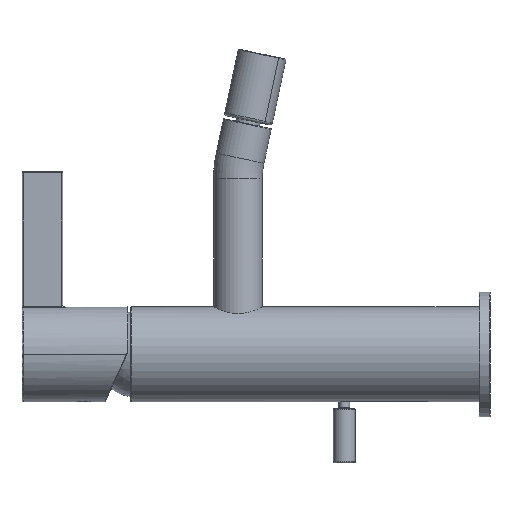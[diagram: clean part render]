
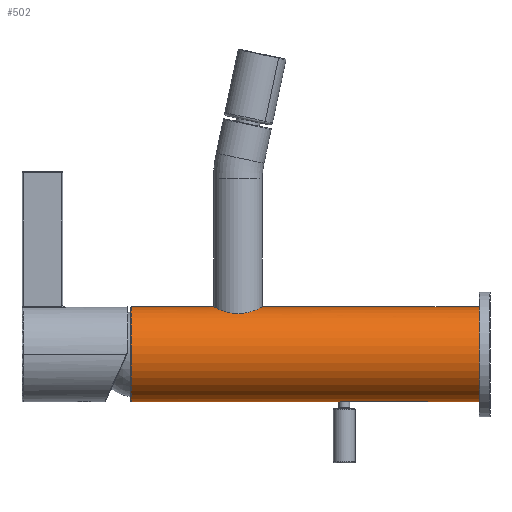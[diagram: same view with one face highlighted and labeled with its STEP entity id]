
A CAD part, left-side view. The second image highlights one B-rep face of the part: STEP entity #502.
In plain terms, the highlighted cylindrical face has radius 17.5 mm (diameter 35 mm), a partial arc.
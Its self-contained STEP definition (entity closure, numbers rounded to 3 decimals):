
#11=CARTESIAN_POINT('',(0.,-86.2,-17.5));
#28=DIRECTION('',(0.,1.,0.));
#29=VECTOR('',#28,80.);
#30=CARTESIAN_POINT('',(0.,-104.1,17.5));
#31=LINE('',#30,#29);
#32=CARTESIAN_POINT('',(0.,-24.1,17.5));
#66=CARTESIAN_POINT('',(0.,-6.1,17.5));
#68=DIRECTION('',(0.,1.,0.));
#69=VECTOR('',#68,30.35);
#70=CARTESIAN_POINT('',(0.,-6.1,17.5));
#71=LINE('',#70,#69);
#77=CARTESIAN_POINT('',(0.,-52.,-17.5));
#93=CARTESIAN_POINT('',(-2.1,-84.1,-17.374));
#94=CARTESIAN_POINT('',(-2.1,-84.238,-17.374));
#95=CARTESIAN_POINT('',(-2.073,-84.51,-17.377));
#96=CARTESIAN_POINT('',(-1.953,-84.909,-17.391));
#97=CARTESIAN_POINT('',(-1.756,-85.276,-17.412));
#98=CARTESIAN_POINT('',(-1.495,-85.594,-17.437));
#99=CARTESIAN_POINT('',(-1.176,-85.856,-17.462));
#100=CARTESIAN_POINT('',(-0.811,-86.053,
-17.483));
#101=CARTESIAN_POINT('',(-0.395,-86.177,
-17.497));
#102=CARTESIAN_POINT('',(-0.132,-86.2,-17.5));
#103=CARTESIAN_POINT('',(0.,-86.2,-17.5));
#105=DIRECTION('',(0.,1.,0.));
#106=VECTOR('',#105,30.);
#107=CARTESIAN_POINT('',(-2.1,-84.1,-17.374));
#108=LINE('',#107,#106);
#109=CARTESIAN_POINT('',(-2.1,-54.1,-17.374));
#110=CARTESIAN_POINT('',(-2.1,-53.961,-17.374));
#111=CARTESIAN_POINT('',(-2.073,-53.69,
-17.377));
#112=CARTESIAN_POINT('',(-1.953,-53.29,
-17.391));
#113=CARTESIAN_POINT('',(-1.756,-52.923,
-17.412));
#114=CARTESIAN_POINT('',(-1.494,-52.605,
-17.437));
#115=CARTESIAN_POINT('',(-1.173,-52.342,
-17.462));
#116=CARTESIAN_POINT('',(-0.806,-52.145,
-17.483));
#117=CARTESIAN_POINT('',(-0.392,-52.023,
-17.497));
#118=CARTESIAN_POINT('',(-0.131,-52.,-17.5));
#119=CARTESIAN_POINT('',(0.,-52.,-17.5));
#121=DIRECTION('',(0.,1.,0.));
#122=VECTOR('',#121,76.25);
#123=CARTESIAN_POINT('',(0.,-52.,-17.5));
#124=LINE('',#123,#122);
#125=CARTESIAN_POINT('',(0.,24.25,0.));
#126=DIRECTION('',(0.,1.,0.));
#127=DIRECTION('',(0.,0.,-1.));
#128=AXIS2_PLACEMENT_3D('',#125,#126,#127);
#130=CARTESIAN_POINT('',(0.,-6.1,17.5));
#131=CARTESIAN_POINT('',(-0.257,-6.1,17.5));
#132=CARTESIAN_POINT('',(-0.77,-6.122,
17.489));
#133=CARTESIAN_POINT('',(-1.543,-6.222,17.438));
#134=CARTESIAN_POINT('',(-2.3,-6.388,17.354));
#135=CARTESIAN_POINT('',(-3.026,-6.613,17.241));
#136=CARTESIAN_POINT('',(-3.719,-6.893,17.105));
#137=CARTESIAN_POINT('',(-4.419,-7.245,16.938));
#138=CARTESIAN_POINT('',(-5.142,-7.696,16.733));
#139=CARTESIAN_POINT('',(-5.905,-8.282,16.481));
#140=CARTESIAN_POINT('',(-6.69,-9.044,16.178));
#141=CARTESIAN_POINT('',(-7.438,-9.981,15.847));
#142=CARTESIAN_POINT('',(-8.108,-11.116,15.513));
#143=CARTESIAN_POINT('',(-8.621,-12.392,15.231));
#144=CARTESIAN_POINT('',(-8.937,-13.769,15.047));
#145=CARTESIAN_POINT('',(-9.,-14.656,15.008));
#146=CARTESIAN_POINT('',(-9.,-15.1,15.008));
#148=CARTESIAN_POINT('',(-9.,-15.1,15.008));
#149=CARTESIAN_POINT('',(-9.,-15.547,15.008));
#150=CARTESIAN_POINT('',(-8.936,-16.442,15.047));
#151=CARTESIAN_POINT('',(-8.613,-17.837,15.236));
#152=CARTESIAN_POINT('',(-8.086,-19.129,15.525));
#153=CARTESIAN_POINT('',(-7.401,-20.273,15.865));
#154=CARTESIAN_POINT('',(-6.642,-21.209,16.198));
#155=CARTESIAN_POINT('',(-5.852,-21.963,16.499));
#156=CARTESIAN_POINT('',(-5.089,-22.541,16.75));
#157=CARTESIAN_POINT('',(-4.367,-22.983,16.952));
#158=CARTESIAN_POINT('',(-3.672,-23.328,17.115));
#159=CARTESIAN_POINT('',(-2.986,-23.601,17.248));
#160=CARTESIAN_POINT('',(-2.27,-23.82,17.357));
#161=CARTESIAN_POINT('',(-1.523,-23.981,17.439));
#162=CARTESIAN_POINT('',(-0.759,-24.079,
17.489));
#163=CARTESIAN_POINT('',(-0.253,-24.1,17.5));
#164=CARTESIAN_POINT('',(0.,-24.1,17.5));
#166=CARTESIAN_POINT('',(0.,-104.1,0.));
#167=DIRECTION('',(0.,-1.,0.));
#168=DIRECTION('',(0.,0.,1.));
#169=AXIS2_PLACEMENT_3D('',#166,#167,#168);
#171=DIRECTION('',(0.,1.,0.));
#172=VECTOR('',#171,17.9);
#173=CARTESIAN_POINT('',(0.,-104.1,-17.5));
#174=LINE('',#173,#172);
#385=CARTESIAN_POINT('',(0.,-104.1,17.5));
#386=CARTESIAN_POINT('',(0.,-104.1,-17.5));
#387=VERTEX_POINT('',#385);
#388=VERTEX_POINT('',#386);
#405=VERTEX_POINT('',#66);
#407=VERTEX_POINT('',#32);
#408=VERTEX_POINT('',#146);
#413=VERTEX_POINT('',#11);
#417=VERTEX_POINT('',#77);
#418=VERTEX_POINT('',#93);
#419=VERTEX_POINT('',#109);
#431=CARTESIAN_POINT('',(0.,24.25,17.5));
#432=CARTESIAN_POINT('',(0.,24.25,-17.5));
#433=VERTEX_POINT('',#431);
#434=VERTEX_POINT('',#432);
#477=CARTESIAN_POINT('',(0.,-104.1,0.));
#478=DIRECTION('',(0.,1.,0.));
#479=DIRECTION('',(0.,0.,1.));
#480=AXIS2_PLACEMENT_3D('',#477,#478,#479);
#481=CYLINDRICAL_SURFACE('',#480,17.5);
#483=ORIENTED_EDGE('',*,*,#482,.F.);
#485=ORIENTED_EDGE('',*,*,#484,.T.);
#487=ORIENTED_EDGE('',*,*,#486,.T.);
#488=ORIENTED_EDGE('',*,*,#468,.T.);
#490=ORIENTED_EDGE('',*,*,#489,.T.);
#491=ORIENTED_EDGE('',*,*,#464,.F.);
#493=ORIENTED_EDGE('',*,*,#492,.T.);
#495=ORIENTED_EDGE('',*,*,#494,.T.);
#496=ORIENTED_EDGE('',*,*,#458,.F.);
#498=ORIENTED_EDGE('',*,*,#497,.T.);
#499=ORIENTED_EDGE('',*,*,#454,.T.);
#500=EDGE_LOOP('',(#483,#485,#487,#488,#490,#491,#493,#495,#496,#498,#499));
#501=FACE_OUTER_BOUND('',#500,.F.);
#502=ADVANCED_FACE('',(#501),#481,.T.);
#104=B_SPLINE_CURVE_WITH_KNOTS('',3,(#93,#94,#95,#96,#97,#98,#99,#100,#101,#102,
#103),.UNSPECIFIED.,.F.,.F.,(4,1,1,1,1,1,1,1,4),(0.,0.125,0.25,0.375,
0.5,0.625,0.75,0.875,1.),.UNSPECIFIED.);
#120=B_SPLINE_CURVE_WITH_KNOTS('',3,(#109,#110,#111,#112,#113,#114,#115,#116,
#117,#118,#119),.UNSPECIFIED.,.F.,.F.,(4,1,1,1,1,1,1,1,4),(0.,0.125,0.25,
0.375,0.5,0.625,0.75,0.875,1.),.UNSPECIFIED.);
#129=CIRCLE('',#128,17.5);
#147=B_SPLINE_CURVE_WITH_KNOTS('',3,(#130,#131,#132,#133,#134,#135,#136,#137,
#138,#139,#140,#141,#142,#143,#144,#145,#146),.UNSPECIFIED.,.F.,.F.,(4,1,1,1,1,
1,1,1,1,1,1,1,1,1,4),(0.,0.071,0.143,
0.214,0.286,0.357,0.429,0.5,
0.571,0.643,0.714,0.786,
0.857,0.929,1.),.UNSPECIFIED.);
#165=B_SPLINE_CURVE_WITH_KNOTS('',3,(#148,#149,#150,#151,#152,#153,#154,#155,
#156,#157,#158,#159,#160,#161,#162,#163,#164),.UNSPECIFIED.,.F.,.F.,(4,1,1,1,1,
1,1,1,1,1,1,1,1,1,4),(0.,0.071,0.143,
0.214,0.286,0.357,0.429,0.5,
0.571,0.643,0.714,0.786,
0.857,0.929,1.),.UNSPECIFIED.);
#170=CIRCLE('',#169,17.5);
#454=EDGE_CURVE('',#388,#413,#174,.T.);
#458=EDGE_CURVE('',#387,#407,#31,.T.);
#464=EDGE_CURVE('',#405,#433,#71,.T.);
#468=EDGE_CURVE('',#417,#434,#124,.T.);
#482=EDGE_CURVE('',#418,#413,#104,.T.);
#484=EDGE_CURVE('',#418,#419,#108,.T.);
#486=EDGE_CURVE('',#419,#417,#120,.T.);
#489=EDGE_CURVE('',#434,#433,#129,.T.);
#492=EDGE_CURVE('',#405,#408,#147,.T.);
#494=EDGE_CURVE('',#408,#407,#165,.T.);
#497=EDGE_CURVE('',#387,#388,#170,.T.);
